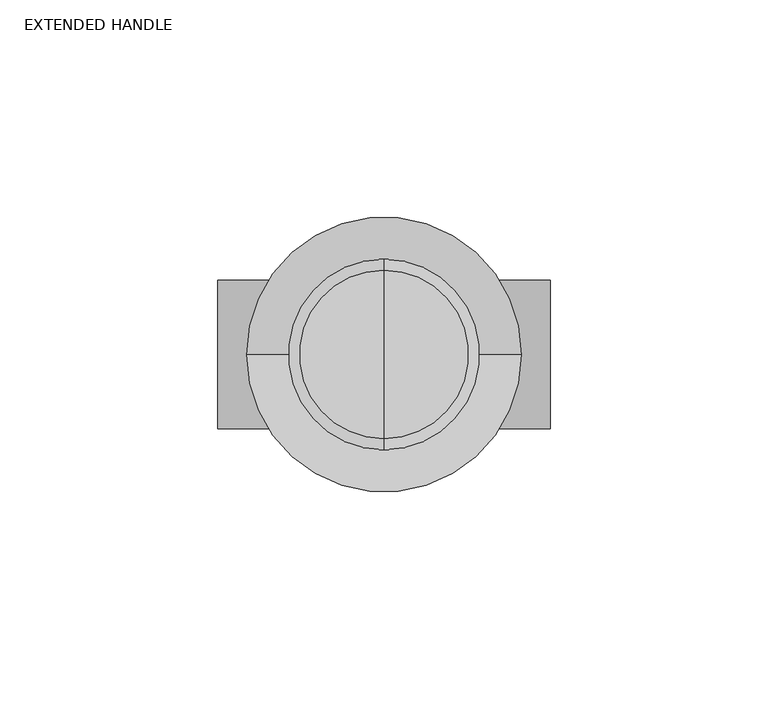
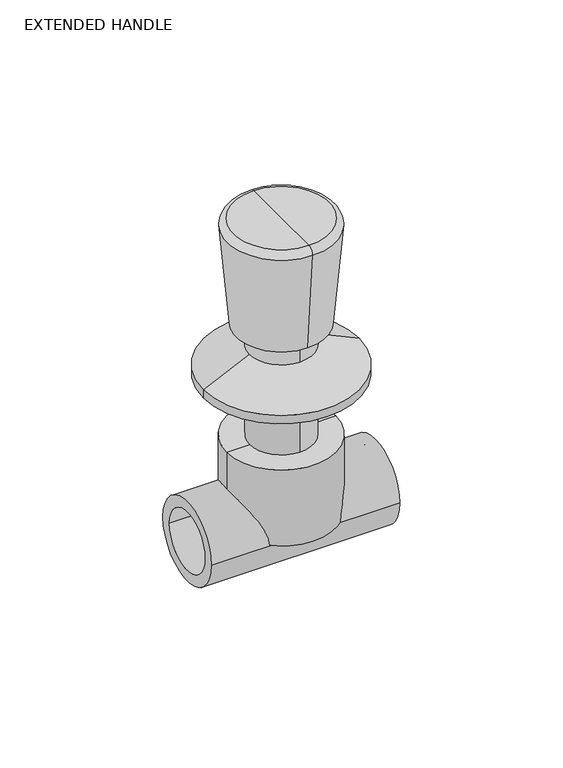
"""IFC4 building model written with IfcOpenShell, lengths in millimetres: valve geometry, Aquatherm - Concealed Valve Extended With Handle : EXTENDED HANDLE."""

from ifc_helpers import new_model, si_unit, point, frame, origin, origin_2d, place, context, project, spatial, polyline, circle_curve, ellipse_curve, trimmed, segment, composite_curve, outline, extrude, source, transform, mapped, element, save
from ifc_brep_helpers import plane_surface, cylinder_surface, revolved_surface, advanced_brep


def extended_handle_6eb356d9(model_context):
    return source(origin(), model_context, "Body", "SolidModel", [
        advanced_brep(
        [(0.0, 19.3406564, 124.968), (0.0, -19.3406564, 124.968), (0.0, 0.0, 124.968), (0.0, 21.870991, 122.2066244), (0.0, -21.870991, 122.2066244), (0.0, 18.2125979, 80.391), (0.0, -18.2125979, 80.391), (0.0, 12.9442633, 80.391), (0.0, -12.9442633, 80.391), (0.0, 12.9442633, 71.181595), (0.0, -12.9442633, 71.181595), (0.0, 0.0, 71.181595)],
        [
            (0, 1, circle_curve(frame((0.0, 0.0, 124.968), z_axis=(0.0, 0.0, 1.0), x_axis=(0.0, -1.0, 0.0)), 19.3406564)),
            (1, 2),
            (2, 0),
            (1, 0, circle_curve(frame((0.0, 0.0, 124.968), z_axis=(0.0, 0.0, 1.0), x_axis=(0.0, -1.0, 0.0)), 19.3406564)),
            (3, 4, circle_curve(frame((0.0, 0.0, 122.2066244), z_axis=(0.0, 0.0, 1.0), x_axis=(0.0, -1.0, 0.0)), 21.870991)),
            (4, 1, circle_curve(frame((0.0, -19.3406564, 122.428), z_axis=(-1.0, 0.0, 0.0), x_axis=(0.0, -1.0, 0.0)), 2.54)),
            (0, 3, circle_curve(frame((0.0, 19.3406564, 122.428), z_axis=(-1.0, 0.0, 0.0), x_axis=(0.0, 1.0, 0.0)), 2.54)),
            (4, 3, circle_curve(frame((0.0, 0.0, 122.2066244), z_axis=(0.0, 0.0, 1.0), x_axis=(0.0, -1.0, 0.0)), 21.870991)),
            (5, 6, circle_curve(frame((0.0, 0.0, 80.391), z_axis=(0.0, 0.0, 1.0), x_axis=(0.0, -1.0, 0.0)), 18.2125979)),
            (6, 4),
            (3, 5),
            (6, 5, circle_curve(frame((0.0, 0.0, 80.391), z_axis=(0.0, 0.0, 1.0), x_axis=(0.0, -1.0, 0.0)), 18.2125979)),
            (7, 8, circle_curve(frame((0.0, 0.0, 80.391), z_axis=(0.0, 0.0, 1.0), x_axis=(0.0, -1.0, 0.0)), 12.9442633)),
            (8, 6),
            (5, 7),
            (8, 7, circle_curve(frame((0.0, 0.0, 80.391), z_axis=(0.0, 0.0, 1.0), x_axis=(0.0, -1.0, 0.0)), 12.9442633)),
            (9, 10, circle_curve(frame((0.0, 0.0, 71.181595), z_axis=(0.0, 0.0, 1.0), x_axis=(0.0, -1.0, 0.0)), 12.9442633)),
            (10, 8),
            (7, 9),
            (10, 9, circle_curve(frame((0.0, 0.0, 71.181595), z_axis=(0.0, 0.0, 1.0), x_axis=(0.0, -1.0, 0.0)), 12.9442633)),
            (11, 10),
            (9, 11),
        ],
        [
            plane_surface(frame((0.0, 0.0, 124.968), z_axis=(0.0, 0.0, 1.0), x_axis=(0.0, -1.0, 0.0))),
            revolved_surface(trimmed(ellipse_curve(frame((0.0, -19.3406564, 122.428), z_axis=(1.0, 0.0, 0.0), x_axis=(0.0, -1.0, 0.0)), 2.54, 2.54), [point((0.0, -19.3406564, 124.968))], [point((0.0, -21.870991, 122.2066244))], True, "CARTESIAN"), (0.0, 0.0, 147.5476097), (0.0, 0.0, -1.0)),
            revolved_surface(polyline([(0.0, -21.870991, 122.2066244), (0.0, -18.2125979, 80.391)]), (0.0, 0.0, 147.5476097), (0.0, 0.0, -1.0)),
            plane_surface(frame((0.0, 0.0, 80.391), z_axis=(0.0, 0.0, -1.0), x_axis=(0.0, -1.0, 0.0))),
            cylinder_surface(frame((0.0, 0.0, 147.5476097), z_axis=(0.0, 0.0, -1.0), x_axis=(0.0, -1.0, 0.0)), 12.9442633),
            plane_surface(frame((0.0, 0.0, 71.181595), z_axis=(0.0, 0.0, -1.0), x_axis=(0.0, -1.0, 0.0))),
        ],
        [
            (0, [[1, 2, 3]]),
            (0, [[4, -3, -2]]),
            (1, [[5, 6, -1, 7]]),
            (1, [[8, -7, -4, -6]]),
            (2, [[9, 10, -5, 11]]),
            (2, [[12, -11, -8, -10]]),
            (3, [[13, 14, -9, 15]]),
            (3, [[16, -15, -12, -14]]),
            (4, [[17, 18, -13, 19]]),
            (4, [[20, -19, -16, -18]]),
            (5, [[21, -17, 22]]),
            (5, [[-22, -20, -21]]),
        ],
    ),
        advanced_brep(
        [(-12.827, 0.0, 71.181595), (12.827, 0.0, 71.181595), (-31.496, 0.0, 62.4797667), (31.496, 0.0, 62.4797667)],
        [
            (0, 1, circle_curve(frame((0.0, 0.0, 71.181595), z_axis=(0.0, 0.0, 1.0), x_axis=(-1.0, 0.0, 0.0)), 12.827)),
            (1, 0, circle_curve(frame((0.0, 0.0, 71.181595), z_axis=(0.0, 0.0, 1.0), x_axis=(1.0, 0.0, 0.0)), 12.827)),
            (2, 3, circle_curve(frame((0.0, 0.0, 62.4797667), z_axis=(0.0, 0.0, -1.0), x_axis=(1.0, 0.0, 0.0)), 31.496)),
            (3, 2, circle_curve(frame((0.0, 0.0, 62.4797667), z_axis=(0.0, 0.0, -1.0), x_axis=(-1.0, 0.0, 0.0)), 31.496)),
            (3, 1),
            (0, 2),
        ],
        [
            plane_surface(frame((0.0, 0.0, 71.181595), z_axis=(0.0, 0.0, 1.0), x_axis=(0.0, -1.0, 0.0))),
            plane_surface(frame((0.0, 0.0, 62.4797667), z_axis=(0.0, 0.0, -1.0), x_axis=(0.0, -1.0, 0.0))),
            revolved_surface(polyline([(-12.827000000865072, 0.0, 71.181595), (-31.496, 0.0, 62.4797667)]), (0.0, 0.0, 77.1604022), (0.0, 0.0, -1.0)),
            revolved_surface(polyline([(12.827000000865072, 0.0, 71.181595), (31.496, 0.0, 62.4797667)]), (0.0, 0.0, 77.1604022), (0.0, 0.0, -1.0)),
        ],
        [
            (0, [[1, 2]]),
            (1, [[3, 4]]),
            (2, [[-4, 5, -1, 6]]),
            (3, [[-3, -6, -2, -5]]),
        ],
    ),
        extrude(outline(composite_curve([segment(trimmed(circle_curve(origin_2d(), 31.496), [point((-31.496, 0.0))], [point((31.496, 0.0))], False, "CARTESIAN"), True, "CONTINUOUS"), segment(trimmed(circle_curve(origin_2d(), 31.496), [point((31.496, 0.0))], [point((-31.496, 0.0))], False, "CARTESIAN"), True, "CONTINUOUS")], self_intersect=False)), frame((0.0, 0.0, 58.928), z_axis=(0.0, 0.0, 1.0), x_axis=(1.0, 0.0, 0.0)), (0.0, 0.0, 1.0), 3.5517667),
        extrude(outline(composite_curve([segment(trimmed(circle_curve(origin_2d(), 12.827), [point((0.0, 12.827))], [point((0.0, -12.827))], False, "CARTESIAN"), True, "CONTINUOUS"), segment(trimmed(circle_curve(origin_2d(), 12.827), [point((0.0, -12.827))], [point((0.0, 12.827))], False, "CARTESIAN"), True, "CONTINUOUS")], self_intersect=False)), frame((0.0, 0.0, 32.512), z_axis=(0.0, 0.0, 1.0), x_axis=(1.0, 0.0, 0.0)), (0.0, 0.0, 1.0), 26.416),
        advanced_brep(
        [(0.0, 0.0, 32.512), (22.098, 0.0, 32.512), (-22.098, 0.0, 32.512), (-22.098, 0.0, 0.0), (22.098, 0.0, 0.0), (0.0, 0.0, 0.0)],
        [
            (0, 1),
            (1, 2, circle_curve(frame((0.0, 0.0, 32.512), z_axis=(0.0, 0.0, 1.0), x_axis=(1.0, 0.0, 0.0)), 22.098)),
            (2, 0),
            (2, 1, circle_curve(frame((0.0, 0.0, 32.512), z_axis=(0.0, 0.0, 1.0), x_axis=(1.0, 0.0, 0.0)), 22.098)),
            (3, 4, circle_curve(frame((0.0, 0.0, 0.0), z_axis=(0.0, 0.0, -1.0), x_axis=(1.0, 0.0, 0.0)), 22.098)),
            (4, 5),
            (5, 3),
            (4, 3, circle_curve(frame((0.0, 0.0, 0.0), z_axis=(0.0, 0.0, -1.0), x_axis=(1.0, 0.0, 0.0)), 22.098)),
            (1, 4),
            (3, 2),
        ],
        [
            plane_surface(frame((0.0, 0.0, 32.512), z_axis=(0.0, 0.0, 1.0), x_axis=(1.0, 0.0, 0.0))),
            plane_surface(frame((0.0, 0.0, 0.0), z_axis=(0.0, 0.0, -1.0), x_axis=(1.0, 0.0, 0.0))),
            cylinder_surface(frame((0.0, 0.0, 35.6334888), z_axis=(0.0, 0.0, 1.0), x_axis=(1.0, 0.0, 0.0)), 22.098),
        ],
        [
            (0, [[1, 2, 3]]),
            (0, [[-3, 4, -1]]),
            (1, [[5, 6, 7]]),
            (1, [[8, -7, -6]]),
            (2, [[-2, 9, -5, 10]]),
            (2, [[-4, -10, -8, -9]]),
        ],
    ),
        extrude(outline(composite_curve([segment(trimmed(circle_curve(origin_2d(), 17.018), [point((-17.018, 0.0))], [point((17.018, 0.0))], False, "CARTESIAN"), True, "CONTINUOUS"), segment(trimmed(circle_curve(origin_2d(), 17.018), [point((17.018, 0.0))], [point((-17.018, 0.0))], False, "CARTESIAN"), True, "CONTINUOUS")], self_intersect=False), holes=[composite_curve([segment(trimmed(circle_curve(origin_2d(), 12.446), [point((-12.446, 0.0))], [point((12.446, 0.0))], True, "CARTESIAN"), True, "CONTINUOUS"), segment(trimmed(circle_curve(origin_2d(), 12.446), [point((12.446, 0.0))], [point((-12.446, 0.0))], True, "CARTESIAN"), True, "CONTINUOUS")], self_intersect=False)]), frame((-38.1, 0.0, 0.0), z_axis=(1.0, 0.0, 0.0), x_axis=(0.0, 1.0, 0.0)), (0.0, 0.0, 1.0), 76.2),
    ])


if __name__ == "__main__":
    model = new_model("IFC4")
    model_context = context("Model", 3, world=origin())
    ifc_project = project(units=[si_unit("LENGTHUNIT", "METRE", prefix="MILLI")], contexts=[model_context])
    site = spatial("IfcSite", under=ifc_project)
    building = spatial("IfcBuilding", under=site)
    placement = place(None, origin())
    extended_handle_shape = extended_handle_6eb356d9(model_context)
    element("IfcValve", 1, ObjectType="Aquatherm - Concealed Valve Extended With Handle : EXTENDED HANDLE", at=placement, inside=building, context=model_context, shape_type="MappedRepresentation", body=[
        mapped(extended_handle_shape, transform((0.0, 0.0, 0.0), x_axis=(1.0, 0.0, 0.0), y_axis=(0.0, 1.0, 0.0), z_axis=(0.0, 0.0, 1.0))),
    ])
    save(model, "model.ifc")
